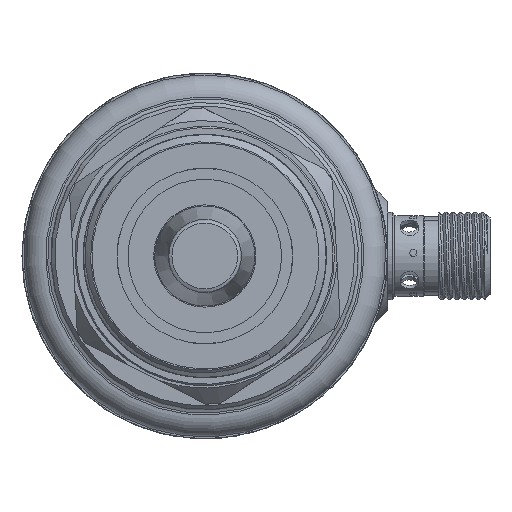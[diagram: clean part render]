
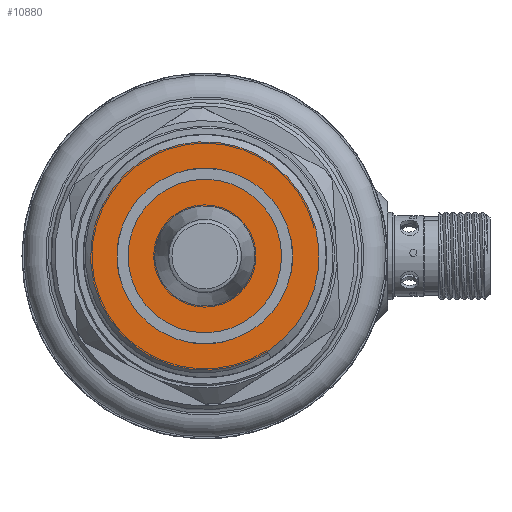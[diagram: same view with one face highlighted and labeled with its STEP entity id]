
A CAD part, front view. The second image highlights one B-rep face of the part: STEP entity #10880.
In plain terms, the highlighted planar face has unit normal (0, -1, 0) as drawn and (-1, 0, 0) by its records, which use the part's own axes.
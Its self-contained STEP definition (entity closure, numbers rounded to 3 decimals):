
#77 = ORIENTED_EDGE ( 'NONE', *, *, #2457, .T. ) ;
#970 = ORIENTED_EDGE ( 'NONE', *, *, #13678, .T. ) ;
#1843 = FACE_OUTER_BOUND ( 'NONE', #13534, .T. ) ;
#2457 = EDGE_CURVE ( 'NONE', #6322, #6322, #10755, .T. ) ;
#3783 = PLANE ( 'NONE',  #8865 ) ;
#4800 = CIRCLE ( 'NONE', #9702, 6.85 ) ;
#5090 = CARTESIAN_POINT ( 'NONE',  ( 2.5, 0., -0.275 ) ) ;
#5110 = DIRECTION ( 'NONE',  ( 1., 0., 0. ) ) ;
#5642 = DIRECTION ( 'NONE',  ( 1., 0., 0. ) ) ;
#6322 = VERTEX_POINT ( 'NONE', #11780 ) ;
#6437 = VERTEX_POINT ( 'NONE', #10688 ) ;
#7083 = EDGE_LOOP ( 'NONE', ( #970 ) ) ;
#8092 = DIRECTION ( 'NONE',  ( 0., 0., -1. ) ) ;
#8524 = AXIS2_PLACEMENT_3D ( 'NONE', #5090, #11167, #8092 ) ;
#8789 = DIRECTION ( 'NONE',  ( 0., 0., -1. ) ) ;
#8865 = AXIS2_PLACEMENT_3D ( 'NONE', #13575, #5110, #10131 ) ;
#9702 = AXIS2_PLACEMENT_3D ( 'NONE', #12213, #5642, #8789 ) ;
#10131 = DIRECTION ( 'NONE',  ( 0., 0., -1. ) ) ;
#10688 = CARTESIAN_POINT ( 'NONE',  ( 2.5, 0., -7.125 ) ) ;
#10755 = CIRCLE ( 'NONE', #8524, 15.626 ) ;
#10880 = ADVANCED_FACE ( 'NONE', ( #1843, #13502 ), #3783, .F. ) ;
#11167 = DIRECTION ( 'NONE',  ( -1., 0., 0. ) ) ;
#11780 = CARTESIAN_POINT ( 'NONE',  ( 2.5, 0., -15.901 ) ) ;
#12213 = CARTESIAN_POINT ( 'NONE',  ( 2.5, 0., -0.275 ) ) ;
#13502 = FACE_BOUND ( 'NONE', #7083, .T. ) ;
#13534 = EDGE_LOOP ( 'NONE', ( #77 ) ) ;
#13575 = CARTESIAN_POINT ( 'NONE',  ( 2.5, 0., -0.275 ) ) ;
#13678 = EDGE_CURVE ( 'NONE', #6437, #6437, #4800, .T. ) ;
